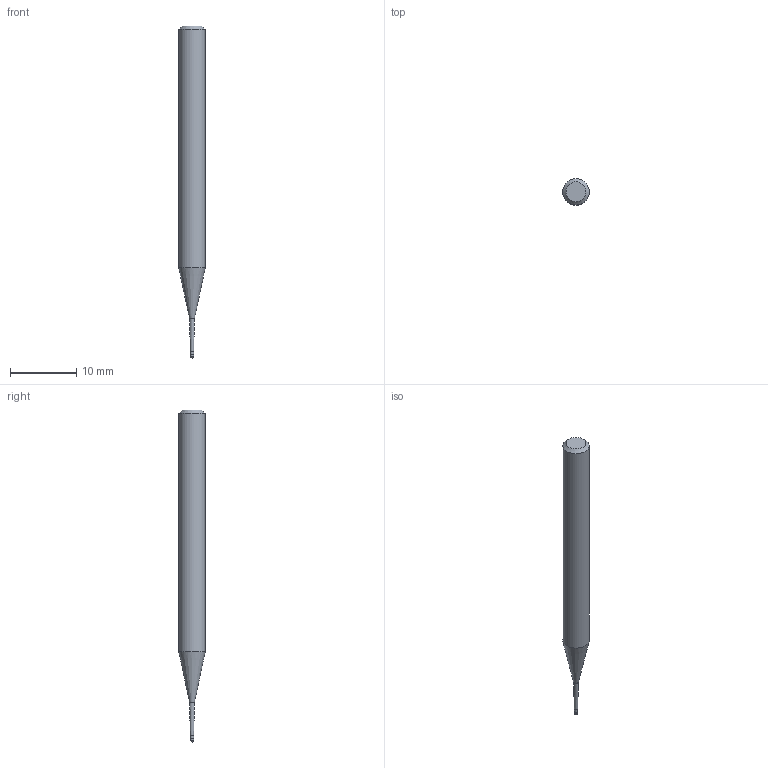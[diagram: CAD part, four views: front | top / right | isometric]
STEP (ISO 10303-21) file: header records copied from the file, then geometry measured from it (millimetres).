
FILE_DESCRIPTION((''),'2;1');
FILE_NAME('C:\Users\nsx150\AppData\Local\Temp\Mastercam 2021\SNAKH10GOD\TEMP.step','2021-10-21T13:31:14',(''),(''),'STEP Write','Mastercam 2021 ... CNC Software, Inc.','');
FILE_SCHEMA(('AUTOMOTIVE_DESIGN'));
Length unit declared in the file: millimetre
Products named in the file (1): None
Bounding box: 4 x 4 x 50 mm (x, y, z)
Volume: 496.6 mm3; surface area: 535.7 mm2
Topology: 2 solids, 2 shells, 10 faces, 16 edges, 9 vertices
Faces by surface type: plane 3, cylinder 3, cone 3, sphere 1
Full cylindrical faces by diameter (mm): 0.485 x1, 0.5 x1, 4 x1
Entity records: 232 total; most frequent: DIRECTION 40, CARTESIAN_POINT 28, AXIS2_PLACEMENT_3D 20, ORIENTED_EDGE 16, EDGE_LOOP 16, STYLED_ITEM 13, ADVANCED_FACE 10, FACE_BOUND 9
